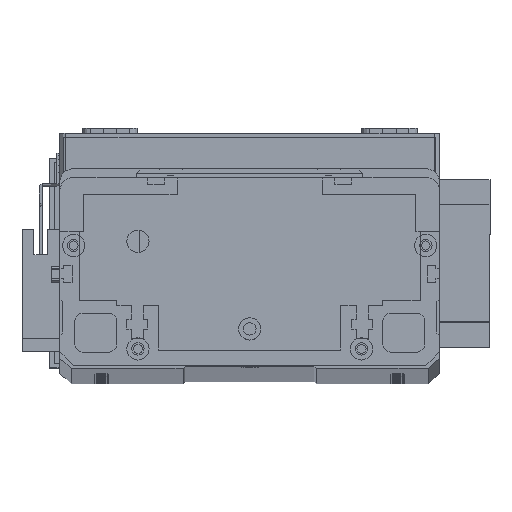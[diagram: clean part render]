
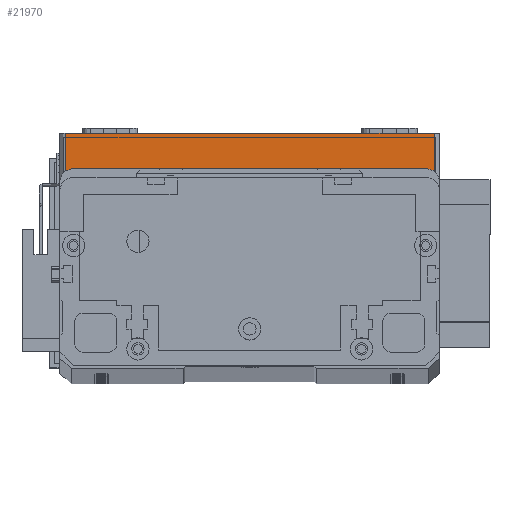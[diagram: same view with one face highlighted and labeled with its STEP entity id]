
A CAD part, top view. The second image highlights one B-rep face of the part: STEP entity #21970.
In plain terms, the highlighted planar face has unit normal (0, 0, 1) as drawn and (0, -1, 0) by its records, which use the part's own axes.
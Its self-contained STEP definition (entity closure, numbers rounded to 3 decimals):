
#928 = ORIENTED_EDGE ( 'NONE', *, *, #1347, .T. ) ;
#1057 = VERTEX_POINT ( 'NONE', #4358 ) ;
#1194 = VECTOR ( 'NONE', #9782, 1000. ) ;
#1347 = EDGE_CURVE ( 'NONE', #1057, #20571, #3725, .T. ) ;
#3725 = LINE ( 'NONE', #27289, #22215 ) ;
#4358 = CARTESIAN_POINT ( 'NONE',  ( 134., 0., 0. ) ) ;
#4383 = CARTESIAN_POINT ( 'NONE',  ( 2., 0., 19.5 ) ) ;
#6090 = EDGE_CURVE ( 'NONE', #9348, #22141, #7622, .T. ) ;
#6359 = CARTESIAN_POINT ( 'NONE',  ( 0., 0., 19.5 ) ) ;
#7163 = ORIENTED_EDGE ( 'NONE', *, *, #19124, .F. ) ;
#7622 = LINE ( 'NONE', #19362, #1194 ) ;
#8155 = PLANE ( 'NONE',  #8240 ) ;
#8240 = AXIS2_PLACEMENT_3D ( 'NONE', #27408, #8259, #25067 ) ;
#8259 = DIRECTION ( 'NONE',  ( 0., 1., 0. ) ) ;
#9072 = ORIENTED_EDGE ( 'NONE', *, *, #6090, .T. ) ;
#9348 = VERTEX_POINT ( 'NONE', #4383 ) ;
#9782 = DIRECTION ( 'NONE',  ( 0., 0., -1. ) ) ;
#10039 = VECTOR ( 'NONE', #16074, 1000. ) ;
#10392 = FACE_OUTER_BOUND ( 'NONE', #16475, .T. ) ;
#12903 = DIRECTION ( 'NONE',  ( 0., 0., 1. ) ) ;
#13403 = CARTESIAN_POINT ( 'NONE',  ( 0., 0., 0. ) ) ;
#16074 = DIRECTION ( 'NONE',  ( 1., 0., 0. ) ) ;
#16456 = LINE ( 'NONE', #6359, #10039 ) ;
#16475 = EDGE_LOOP ( 'NONE', ( #7163, #9072, #28994, #928 ) ) ;
#19124 = EDGE_CURVE ( 'NONE', #9348, #20571, #16456, .T. ) ;
#19362 = CARTESIAN_POINT ( 'NONE',  ( 2., 0., 19.5 ) ) ;
#20571 = VERTEX_POINT ( 'NONE', #31184 ) ;
#21970 = ADVANCED_FACE ( 'NONE', ( #10392 ), #8155, .F. ) ;
#22141 = VERTEX_POINT ( 'NONE', #25576 ) ;
#22215 = VECTOR ( 'NONE', #12903, 1000. ) ;
#25067 = DIRECTION ( 'NONE',  ( 0., 0., 1. ) ) ;
#25576 = CARTESIAN_POINT ( 'NONE',  ( 2., 0., 0. ) ) ;
#26237 = EDGE_CURVE ( 'NONE', #22141, #1057, #27100, .T. ) ;
#27100 = LINE ( 'NONE', #13403, #27884 ) ;
#27289 = CARTESIAN_POINT ( 'NONE',  ( 134., 0., 19.5 ) ) ;
#27408 = CARTESIAN_POINT ( 'NONE',  ( 0., 0., 19.5 ) ) ;
#27803 = DIRECTION ( 'NONE',  ( 1., 0., 0. ) ) ;
#27884 = VECTOR ( 'NONE', #27803, 1000. ) ;
#28994 = ORIENTED_EDGE ( 'NONE', *, *, #26237, .T. ) ;
#31184 = CARTESIAN_POINT ( 'NONE',  ( 134., 0., 19.5 ) ) ;
